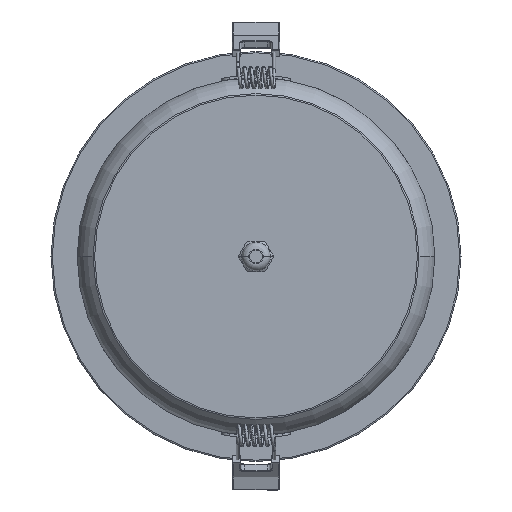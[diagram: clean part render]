
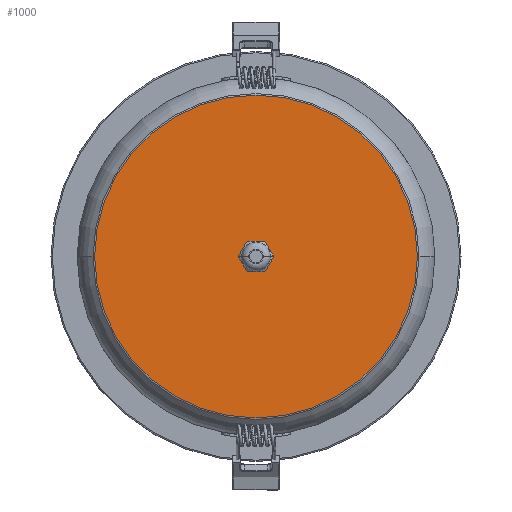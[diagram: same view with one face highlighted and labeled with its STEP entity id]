
A CAD part, front view. The second image highlights one B-rep face of the part: STEP entity #1000.
In plain terms, the highlighted planar face has unit normal (0, -1, 0).
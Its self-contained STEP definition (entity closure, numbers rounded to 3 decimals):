
#137=DIRECTION('',(1.,0.,0.));
#138=VECTOR('',#137,6.928);
#139=CARTESIAN_POINT('',(-3.464,-29.3,-6.));
#140=LINE('',#139,#138);
#144=DIRECTION('',(0.5,0.,0.866));
#145=VECTOR('',#144,6.928);
#146=CARTESIAN_POINT('',(3.464,-29.3,-6.));
#147=LINE('',#146,#145);
#151=DIRECTION('',(-0.5,0.,0.866));
#152=VECTOR('',#151,6.928);
#153=CARTESIAN_POINT('',(6.928,-29.3,0.));
#154=LINE('',#153,#152);
#158=DIRECTION('',(-1.,0.,0.));
#159=VECTOR('',#158,6.928);
#160=CARTESIAN_POINT('',(3.464,-29.3,6.));
#161=LINE('',#160,#159);
#165=DIRECTION('',(-0.5,0.,-0.866));
#166=VECTOR('',#165,6.928);
#167=CARTESIAN_POINT('',(-3.464,-29.3,6.));
#168=LINE('',#167,#166);
#172=DIRECTION('',(0.5,0.,-0.866));
#173=VECTOR('',#172,6.928);
#174=CARTESIAN_POINT('',(-6.928,-29.3,0.));
#175=LINE('',#174,#173);
#179=CARTESIAN_POINT('',(0.,-29.3,0.));
#180=DIRECTION('',(0.,-1.,0.));
#181=DIRECTION('',(1.,0.,0.));
#182=AXIS2_PLACEMENT_3D('',#179,#180,#181);
#187=CARTESIAN_POINT('',(0.,-29.3,0.));
#188=DIRECTION('',(0.,-1.,0.));
#189=DIRECTION('',(-1.,0.,0.));
#190=AXIS2_PLACEMENT_3D('',#187,#188,#189);
#733=CARTESIAN_POINT('',(-3.464,-29.3,-6.));
#734=CARTESIAN_POINT('',(3.464,-29.3,-6.));
#735=VERTEX_POINT('',#733);
#736=VERTEX_POINT('',#734);
#737=CARTESIAN_POINT('',(6.928,-29.3,0.));
#738=VERTEX_POINT('',#737);
#739=CARTESIAN_POINT('',(3.464,-29.3,6.));
#740=VERTEX_POINT('',#739);
#741=CARTESIAN_POINT('',(-3.464,-29.3,6.));
#742=VERTEX_POINT('',#741);
#743=CARTESIAN_POINT('',(-6.928,-29.3,0.));
#744=VERTEX_POINT('',#743);
#807=CARTESIAN_POINT('',(63.172,-29.3,0.));
#808=CARTESIAN_POINT('',(-63.172,-29.3,0.));
#809=VERTEX_POINT('',#807);
#810=VERTEX_POINT('',#808);
#976=CARTESIAN_POINT('',(0.,-29.3,0.));
#977=DIRECTION('',(0.,-1.,0.));
#978=DIRECTION('',(1.,0.,0.));
#979=AXIS2_PLACEMENT_3D('',#976,#977,#978);
#980=PLANE('',#979);
#981=ORIENTED_EDGE('',*,*,#959,.F.);
#983=ORIENTED_EDGE('',*,*,#982,.F.);
#984=EDGE_LOOP('',(#981,#983));
#985=FACE_OUTER_BOUND('',#984,.F.);
#987=ORIENTED_EDGE('',*,*,#986,.T.);
#989=ORIENTED_EDGE('',*,*,#988,.T.);
#991=ORIENTED_EDGE('',*,*,#990,.T.);
#993=ORIENTED_EDGE('',*,*,#992,.T.);
#995=ORIENTED_EDGE('',*,*,#994,.T.);
#997=ORIENTED_EDGE('',*,*,#996,.T.);
#998=EDGE_LOOP('',(#987,#989,#991,#993,#995,#997));
#999=FACE_BOUND('',#998,.F.);
#1000=ADVANCED_FACE('',(#985,#999),#980,.T.);
#183=CIRCLE('',#182,63.172);
#191=CIRCLE('',#190,63.172);
#959=EDGE_CURVE('',#809,#810,#183,.T.);
#982=EDGE_CURVE('',#810,#809,#191,.T.);
#986=EDGE_CURVE('',#735,#736,#140,.T.);
#988=EDGE_CURVE('',#736,#738,#147,.T.);
#990=EDGE_CURVE('',#738,#740,#154,.T.);
#992=EDGE_CURVE('',#740,#742,#161,.T.);
#994=EDGE_CURVE('',#742,#744,#168,.T.);
#996=EDGE_CURVE('',#744,#735,#175,.T.);
